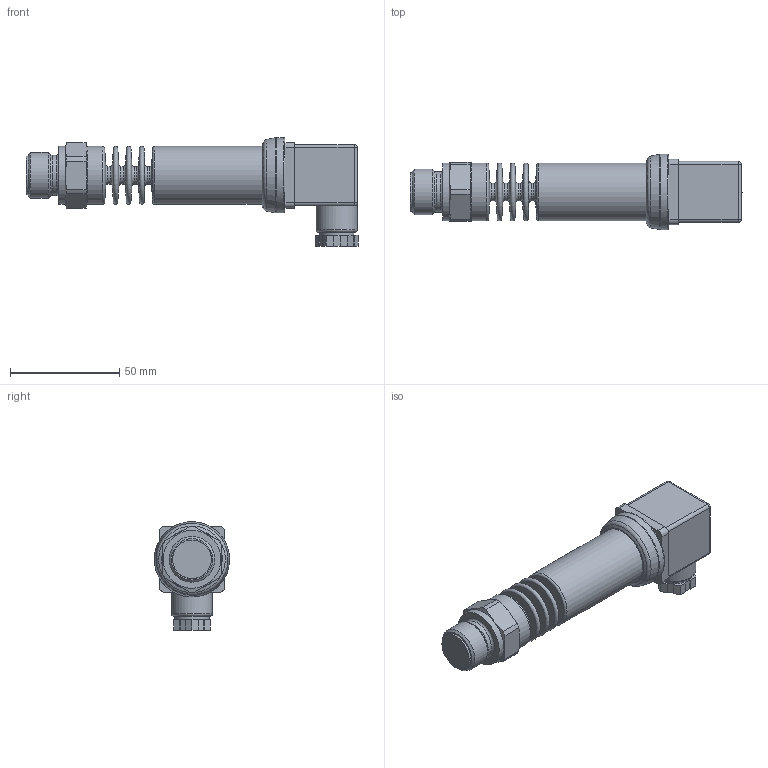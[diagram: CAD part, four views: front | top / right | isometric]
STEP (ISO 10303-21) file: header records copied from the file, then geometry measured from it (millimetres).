
FILE_DESCRIPTION(/* description */ (''),/* implementation_level */ '2;1');
FILE_NAME(/* name */ 'C:\Users\cz1166\Documents\STEP\DMK331P-50x-xxxx-x-x-100-Z00-1-x-x-200.stp',/* time_stamp */ '2020-04-21T12:03:36+02:00',/* author */ ('cz1166'),/* organization */ (''),/* preprocessor_version */ 'ST-DEVELOPER v16.5',/* originating_system */ 'Autodesk Inventor 2017',/* authorisation */ '');
FILE_SCHEMA (('AUTOMOTIVE_DESIGN { 1 0 10303 214 3 1 1 }'));
Length unit declared in the file: millimetre
Products named in the file (1): DMK331P-50x-xxxx-x-x-100-Z00-1-x-x-200
Bounding box: 152.09 x 34.47 x 49.74 mm (x, y, z)
Volume: 89954.8 mm3; surface area: 19283.7 mm2
Topology: 1 solids, 1 shells, 131 faces, 321 edges, 194 vertices
Faces by surface type: plane 61, cylinder 32, torus 20, cone 14, sphere 4
Full cylindrical faces by diameter (mm): 8 x4, 15.7 x1, 17.7 x1, 18.4 x1, 18.8 x1, 20.955 x1, 26.5 x3, 34.5 x1
Entity records: 3613 total; most frequent: DIRECTION 608, CARTESIAN_POINT 607, ORIENTED_EDGE 520, EDGE_CURVE 260, AXIS2_PLACEMENT_3D 230, EDGE_LOOP 181, VERTEX_POINT 181, LINE 148
